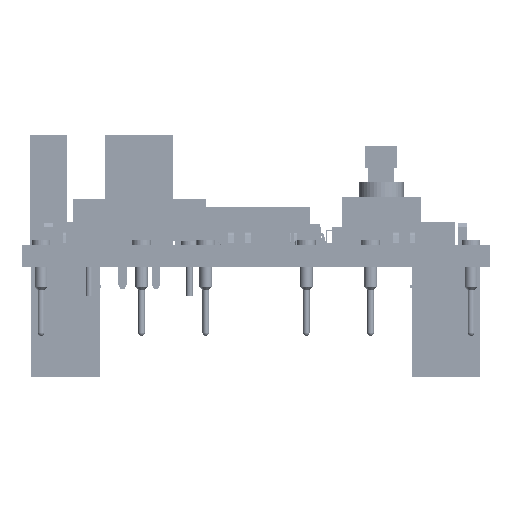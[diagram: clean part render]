
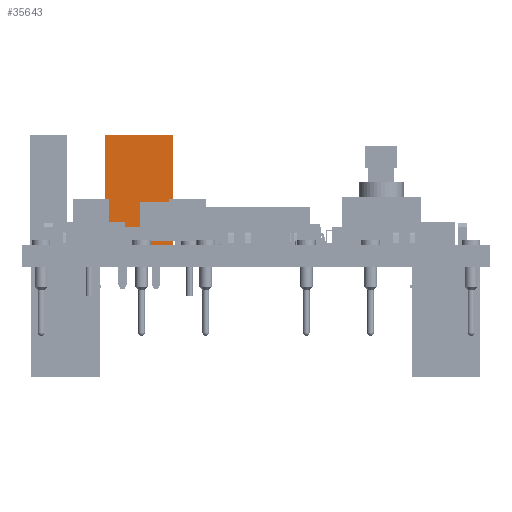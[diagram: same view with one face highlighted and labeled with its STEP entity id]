
A CAD part, front view. The second image highlights one B-rep face of the part: STEP entity #35643.
In plain terms, the highlighted planar face has unit normal (0, -1, 0).
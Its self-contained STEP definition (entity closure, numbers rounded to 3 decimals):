
#35618 = VERTEX_POINT('',#35619);
#35619 = CARTESIAN_POINT('',(2.579,-1.299,8.38));
#35625 = EDGE_CURVE('',#35626,#35618,#35628,.T.);
#35626 = VERTEX_POINT('',#35627);
#35627 = CARTESIAN_POINT('',(2.579,-1.299,0.));
#35628 = LINE('',#35629,#35630);
#35629 = CARTESIAN_POINT('',(2.579,-1.299,0.));
#35630 = VECTOR('',#35631,1.);
#35631 = DIRECTION('',(0.,0.,1.));
#35643 = ADVANCED_FACE('',(#35644),#35669,.T.);
#35644 = FACE_BOUND('',#35645,.T.);
#35645 = EDGE_LOOP('',(#35646,#35647,#35655,#35663));
#35646 = ORIENTED_EDGE('',*,*,#35625,.T.);
#35647 = ORIENTED_EDGE('',*,*,#35648,.T.);
#35648 = EDGE_CURVE('',#35618,#35649,#35651,.T.);
#35649 = VERTEX_POINT('',#35650);
#35650 = CARTESIAN_POINT('',(-2.579,-1.299,8.38));
#35651 = LINE('',#35652,#35653);
#35652 = CARTESIAN_POINT('',(2.579,-1.299,8.38));
#35653 = VECTOR('',#35654,1.);
#35654 = DIRECTION('',(-1.,0.,0.));
#35655 = ORIENTED_EDGE('',*,*,#35656,.F.);
#35656 = EDGE_CURVE('',#35657,#35649,#35659,.T.);
#35657 = VERTEX_POINT('',#35658);
#35658 = CARTESIAN_POINT('',(-2.579,-1.299,0.));
#35659 = LINE('',#35660,#35661);
#35660 = CARTESIAN_POINT('',(-2.579,-1.299,0.));
#35661 = VECTOR('',#35662,1.);
#35662 = DIRECTION('',(0.,0.,1.));
#35663 = ORIENTED_EDGE('',*,*,#35664,.F.);
#35664 = EDGE_CURVE('',#35626,#35657,#35665,.T.);
#35665 = LINE('',#35666,#35667);
#35666 = CARTESIAN_POINT('',(2.579,-1.299,0.));
#35667 = VECTOR('',#35668,1.);
#35668 = DIRECTION('',(-1.,0.,0.));
#35669 = PLANE('',#35670);
#35670 = AXIS2_PLACEMENT_3D('',#35671,#35672,#35673);
#35671 = CARTESIAN_POINT('',(2.579,-1.299,0.));
#35672 = DIRECTION('',(0.,-1.,0.));
#35673 = DIRECTION('',(-1.,0.,0.));
